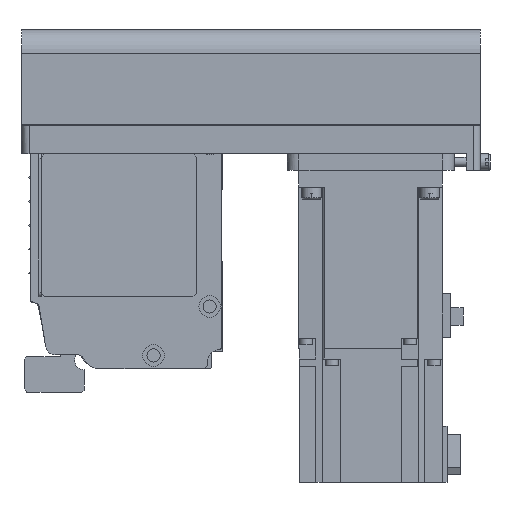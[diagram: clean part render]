
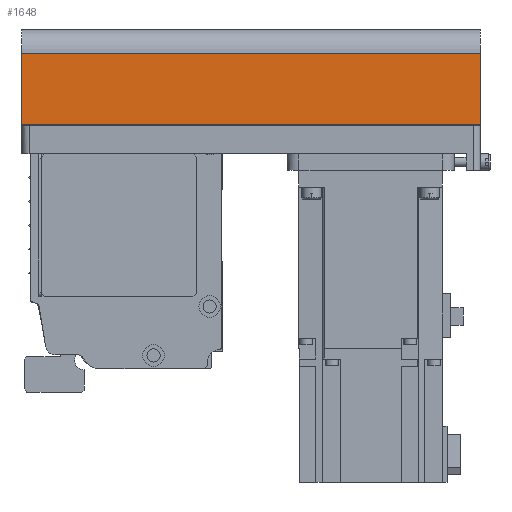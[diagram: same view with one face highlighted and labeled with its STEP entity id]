
A CAD part, left-side view. The second image highlights one B-rep face of the part: STEP entity #1648.
In plain terms, the highlighted planar face has unit normal (-1, 0, 0) as drawn and (0, -1, 0) by its records, which use the part's own axes.
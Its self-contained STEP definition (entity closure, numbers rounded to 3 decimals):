
#1648 = ADVANCED_FACE( '', ( #3599 ), #3600, .T. );
#3599 = FACE_OUTER_BOUND( '', #5871, .T. );
#3600 = PLANE( '', #5872 );
#5871 = EDGE_LOOP( '', ( #10364, #10365, #10366, #10367 ) );
#5872 = AXIS2_PLACEMENT_3D( '', #10368, #10369, #10370 );
#10364 = ORIENTED_EDGE( '', *, *, #14852, .F. );
#10365 = ORIENTED_EDGE( '', *, *, #14853, .F. );
#10366 = ORIENTED_EDGE( '', *, *, #14790, .T. );
#10367 = ORIENTED_EDGE( '', *, *, #14854, .T. );
#10368 = CARTESIAN_POINT( '', ( -192., -40., -12.1 ) );
#10369 = DIRECTION( '', ( 0., -1., 0. ) );
#10370 = DIRECTION( '', ( 0., 0., -1. ) );
#14790 = EDGE_CURVE( '', #18237, #18242, #18244, .T. );
#14852 = EDGE_CURVE( '', #18328, #18329, #18330, .T. );
#14853 = EDGE_CURVE( '', #18237, #18328, #18331, .T. );
#14854 = EDGE_CURVE( '', #18242, #18329, #18332, .T. );
#18237 = VERTEX_POINT( '', #22783 );
#18242 = VERTEX_POINT( '', #22790 );
#18244 = LINE( '', #22792, #22793 );
#18328 = VERTEX_POINT( '', #22903 );
#18329 = VERTEX_POINT( '', #22904 );
#18330 = LINE( '', #22905, #22906 );
#18331 = LINE( '', #22907, #22908 );
#18332 = LINE( '', #22909, #22910 );
#22783 = CARTESIAN_POINT( '', ( -192., -40., -12.1 ) );
#22790 = CARTESIAN_POINT( '', ( -192., -40., -42. ) );
#22792 = CARTESIAN_POINT( '', ( -192., -40., -12.1 ) );
#22793 = VECTOR( '', #25990, 1000. );
#22903 = CARTESIAN_POINT( '', ( 0., -40., -12.1 ) );
#22904 = CARTESIAN_POINT( '', ( 0., -40., -42. ) );
#22905 = CARTESIAN_POINT( '', ( 0., -40., -12.1 ) );
#22906 = VECTOR( '', #26059, 1000. );
#22907 = CARTESIAN_POINT( '', ( -192., -40., -12.1 ) );
#22908 = VECTOR( '', #26060, 1000. );
#22909 = CARTESIAN_POINT( '', ( -192., -40., -42. ) );
#22910 = VECTOR( '', #26061, 1000. );
#25990 = DIRECTION( '', ( 0., 0., -1. ) );
#26059 = DIRECTION( '', ( 0., 0., -1. ) );
#26060 = DIRECTION( '', ( 1., 0., 0. ) );
#26061 = DIRECTION( '', ( 1., 0., 0. ) );
